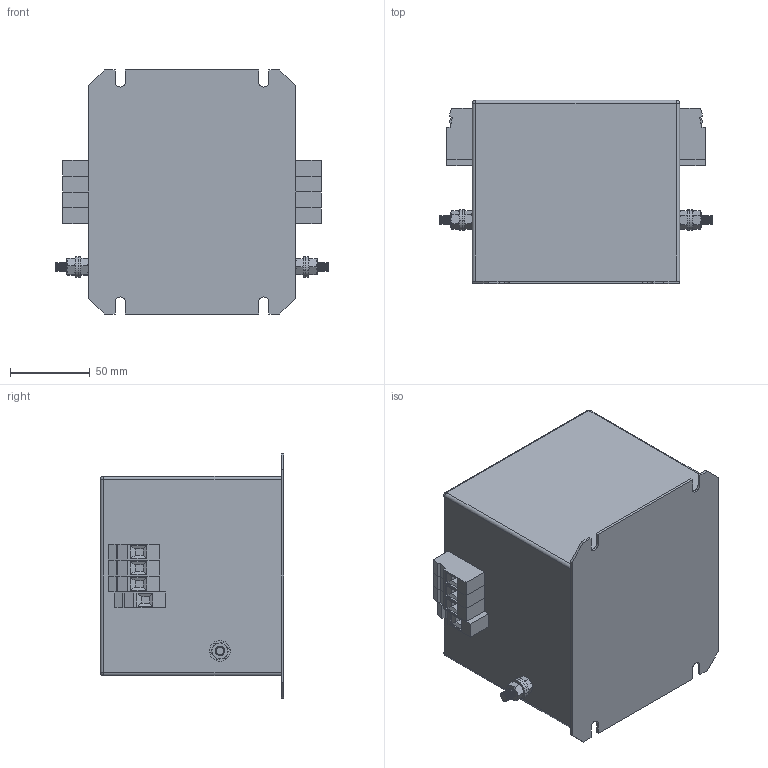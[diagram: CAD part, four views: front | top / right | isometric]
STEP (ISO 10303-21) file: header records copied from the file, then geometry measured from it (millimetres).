
FILE_DESCRIPTION (( 'STEP AP203' ), '1' );
FILE_NAME ('NF-4-36-FTR.STEP', '2016-11-21T10:13:04', ( '' ), ( '' ), 'SwSTEP 2.0', 'SolidWorks 2017', '' );
FILE_SCHEMA (( 'CONFIG_CONTROL_DESIGN' ));
Length unit declared in the file: millimetre
Products named in the file (8): VDFK6x3; hex nut style 1_am_B18.2.4.1M - Hex nut, Style 1,  M6 x 1 --D-N; M6x16 Earth post; hex screw_am_B18.6.7M - M6 x 1.0 x 16 Indented HHMS --16S; NF-4-36-FTR; flat washer narrow_am_B18.22M - Plain washer, 6 mm, narrow; VDFK-6; FNM-4
Assembly tree (14 placements, depth 3):
  NF-4-36-FTR
    FNM-4
    M6x16 Earth post  x2
      flat washer narrow_am_B18.22M - Plain washer, 6 mm, narrow
      hex nut style 1_am_B18.2.4.1M - Hex nut, Style 1,  M6 x 1 --D-N
      hex screw_am_B18.6.7M - M6 x 1.0 x 16 Indented HHMS --16S
    VDFK6x3  x2
      VDFK-6
    VDFK-6  x2
Bounding box: 171.4 x 115 x 153 mm (x, y, z)
Volume: 1883357.8 mm3; surface area: 168192.4 mm2
Topology: 18 solids, 18 shells, 800 faces, 1972 edges, 1240 vertices
Faces by surface type: plane 440, cylinder 188, cone 168, sphere 4
Entity records: 8861 total; most frequent: CARTESIAN_POINT 1495, DIRECTION 1431, ORIENTED_EDGE 1278, EDGE_CURVE 639, AXIS2_PLACEMENT_3D 552, VERTEX_POINT 400, VECTOR 327, LINE 327
